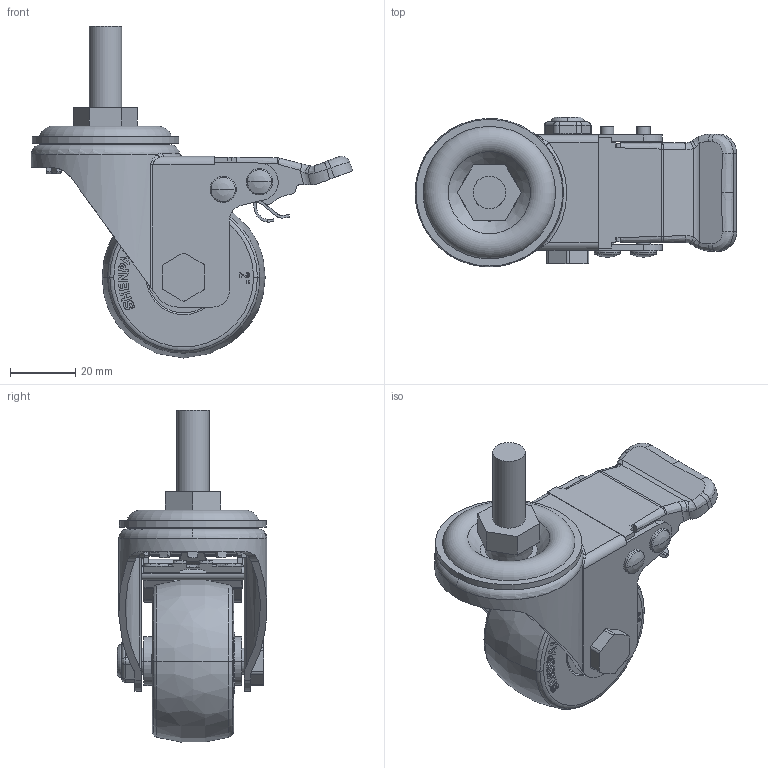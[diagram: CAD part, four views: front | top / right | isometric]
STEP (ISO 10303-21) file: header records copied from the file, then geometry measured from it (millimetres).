
FILE_DESCRIPTION(/* description */ (''),/* implementation_level */ '2;1');
FILE_NAME(/* name */ '18A10_2_F.stp',/* time_stamp */ '2022-10-06T14:23:45+08:00',/* author */ (''),/* organization */ (''),/* preprocessor_version */ 'ST-DEVELOPER v14',/* originating_system */ 'SIEMENS PLM Software NX 8.0',/* authorisation */ '');
FILE_SCHEMA (('AUTOMOTIVE_DESIGN { 1 0 10303 214 3 1 1 1 }'));
Length unit declared in the file: millimetre
Products named in the file (1): 18A10_2_F
Bounding box: 98.62 x 45.98 x 101.81 mm (x, y, z)
Volume: 73569.5 mm3; surface area: 41378.6 mm2
Topology: 1 solids, 5 shells, 1249 faces, 3484 edges, 2251 vertices
Faces by surface type: plane 600, cylinder 337, torus 121, extrusion 78, sphere 59, bspline 40, cone 14
Full cylindrical faces by diameter (mm): 10 x1, 10.3 x1, 16 x1, 45 x1
Entity records: 48703 total; most frequent: CARTESIAN_POINT 18181, ORIENTED_EDGE 6782, DIRECTION 5730, EDGE_CURVE 3391, VERTEX_POINT 2228, AXIS2_PLACEMENT_3D 2056, VECTOR 1618, LINE 1540
